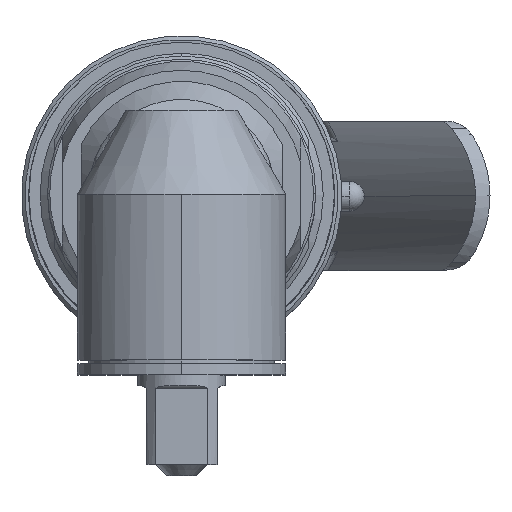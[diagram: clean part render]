
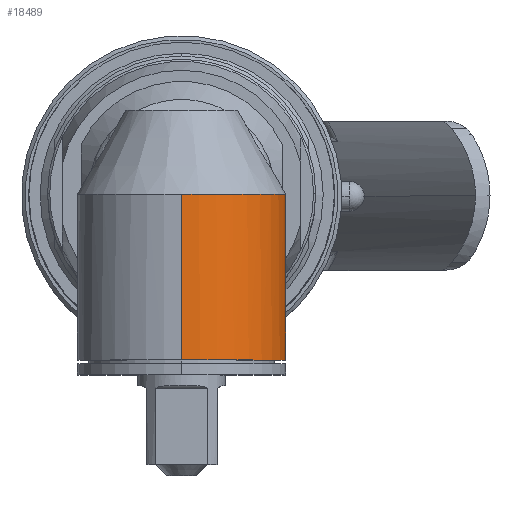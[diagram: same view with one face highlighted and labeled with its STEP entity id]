
A CAD part, top view. The second image highlights one B-rep face of the part: STEP entity #18489.
In plain terms, the highlighted cylindrical face has radius 14 mm (diameter 28 mm), a partial arc.
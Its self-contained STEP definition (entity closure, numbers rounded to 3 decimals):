
#9030 = DIRECTION ( 'NONE',  ( 0., 1., 0. ) ) ;
#9031 = VECTOR ( 'NONE', #9030, 1000. ) ;
#9032 = CARTESIAN_POINT ( 'NONE',  ( 0., 18.453, 14. ) ) ;
#9033 = LINE ( 'NONE', #9032, #9031 ) ;
#18489 = ADVANCED_FACE ( 'NONE', ( #29761 ), #29760, .T. ) ;
#18490 = EDGE_LOOP ( 'NONE', ( #18491, #18495, #18591, #18594, #18597, #18600, #18603 ) ) ;
#18491 = ORIENTED_EDGE ( 'NONE', *, *, #18492, .T. ) ;
#18492 = EDGE_CURVE ( 'NONE', #18493, #18494, #29755, .T. ) ;
#18493 = VERTEX_POINT ( 'NONE', #29816 ) ;
#18494 = VERTEX_POINT ( 'NONE', #29815 ) ;
#18495 = ORIENTED_EDGE ( 'NONE', *, *, #18590, .T. ) ;
#18496 = VERTEX_POINT ( 'NONE', #29814 ) ;
#18590 = EDGE_CURVE ( 'NONE', #18494, #18496, #30015, .T. ) ;
#18591 = ORIENTED_EDGE ( 'NONE', *, *, #18592, .T. ) ;
#18592 = EDGE_CURVE ( 'NONE', #18496, #18593, #30067, .T. ) ;
#18593 = VERTEX_POINT ( 'NONE', #30069 ) ;
#18594 = ORIENTED_EDGE ( 'NONE', *, *, #18595, .F. ) ;
#18595 = EDGE_CURVE ( 'NONE', #18596, #18593, #30068, .T. ) ;
#18596 = VERTEX_POINT ( 'NONE', #30059 ) ;
#18597 = ORIENTED_EDGE ( 'NONE', *, *, #18598, .T. ) ;
#18598 = EDGE_CURVE ( 'NONE', #18596, #18599, #30050, .T. ) ;
#18599 = VERTEX_POINT ( 'NONE', #30049 ) ;
#18600 = ORIENTED_EDGE ( 'NONE', *, *, #18601, .F. ) ;
#18601 = EDGE_CURVE ( 'NONE', #18602, #18599, #30058, .T. ) ;
#18602 = VERTEX_POINT ( 'NONE', #30101 ) ;
#18603 = ORIENTED_EDGE ( 'NONE', *, *, #35129, .F. ) ;
#29273 = DIRECTION ( 'NONE',  ( 0., 0., 1. ) ) ;
#29276 = DIRECTION ( 'NONE',  ( 0., 1., 0. ) ) ;
#29753 = CARTESIAN_POINT ( 'NONE',  ( 0., -22.5, 0. ) ) ;
#29754 = AXIS2_PLACEMENT_3D ( 'NONE', #29753, #29276, #29273 ) ;
#29755 = CIRCLE ( 'NONE', #29754, 14. ) ;
#29756 = DIRECTION ( 'NONE',  ( 0., 0., 1. ) ) ;
#29757 = DIRECTION ( 'NONE',  ( 0., 1., 0. ) ) ;
#29758 = CARTESIAN_POINT ( 'NONE',  ( 0., 18.453, 0. ) ) ;
#29759 = AXIS2_PLACEMENT_3D ( 'NONE', #29758, #29757, #29756 ) ;
#29760 = CYLINDRICAL_SURFACE ( 'NONE', #29759, 14. ) ;
#29761 = FACE_OUTER_BOUND ( 'NONE', #18490, .T. ) ;
#29814 = CARTESIAN_POINT ( 'NONE',  ( 0., -18., -14. ) ) ;
#29815 = CARTESIAN_POINT ( 'NONE',  ( 0., -22.5, -14. ) ) ;
#29816 = CARTESIAN_POINT ( 'NONE',  ( 0., -22.5, 14. ) ) ;
#30012 = DIRECTION ( 'NONE',  ( 0., 1., 0. ) ) ;
#30013 = VECTOR ( 'NONE', #30012, 1000. ) ;
#30014 = CARTESIAN_POINT ( 'NONE',  ( 0., 18.453, -14. ) ) ;
#30015 = LINE ( 'NONE', #30014, #30013 ) ;
#30049 = CARTESIAN_POINT ( 'NONE',  ( 12.497, -0.258, -6.31 ) ) ;
#30050 = B_SPLINE_CURVE_WITH_KNOTS ( 'NONE', 3,
 ( #30057, #30056, #30055, #30054, #30053, #30052, #30051, #30100, #30099, #30098, #30097, #30096, #30095, #30094, #30093, #30092, #30091, #30090, #30089, #30088, #30087, #30086, #30085, #30084, #30083, #30082 ),
 .UNSPECIFIED., .F., .F.,
 ( 4, 2, 2, 2, 2, 2, 2, 2, 2, 2, 2, 2, 4 ),
 ( 0.025, 0.026, 0.027, 0.029, 0.03, 0.032, 0.034, 0.036, 0.038, 0.039, 0.04, 0.041, 0.042 ),
 .UNSPECIFIED. ) ;
#30051 = CARTESIAN_POINT ( 'NONE',  ( 6.964, -10.399, -12.16 ) ) ;
#30052 = CARTESIAN_POINT ( 'NONE',  ( 6.424, -10.743, -12.455 ) ) ;
#30053 = CARTESIAN_POINT ( 'NONE',  ( 5.558, -11.201, -12.853 ) ) ;
#30054 = CARTESIAN_POINT ( 'NONE',  ( 5.26, -11.345, -12.979 ) ) ;
#30055 = CARTESIAN_POINT ( 'NONE',  ( 4.642, -11.611, -13.212 ) ) ;
#30056 = CARTESIAN_POINT ( 'NONE',  ( 4.323, -11.734, -13.32 ) ) ;
#30057 = CARTESIAN_POINT ( 'NONE',  ( 4., -11.843, -13.416 ) ) ;
#30058 = CIRCLE ( 'NONE', #30105, 14. ) ;
#30059 = CARTESIAN_POINT ( 'NONE',  ( 4., -11.843, -13.416 ) ) ;
#30060 = DIRECTION ( 'NONE',  ( 0., -1., 0. ) ) ;
#30061 = VECTOR ( 'NONE', #30060, 1000. ) ;
#30062 = CARTESIAN_POINT ( 'NONE',  ( 4., 18.453, -13.416 ) ) ;
#30063 = CARTESIAN_POINT ( 'NONE',  ( 4., -18.337, -13.416 ) ) ;
#30064 = CARTESIAN_POINT ( 'NONE',  ( 2.7, -18.113, -13.804 ) ) ;
#30065 = CARTESIAN_POINT ( 'NONE',  ( 1.357, -18., -14. ) ) ;
#30066 = CARTESIAN_POINT ( 'NONE',  ( 0., -18., -14. ) ) ;
#30067 =( BOUNDED_CURVE ( )  B_SPLINE_CURVE ( 3, ( #30066, #30065, #30064, #30063 ),
 .UNSPECIFIED., .F., .F. ) 
 B_SPLINE_CURVE_WITH_KNOTS ( ( 4, 4 ),
 ( 0., 0.29 ),
 .UNSPECIFIED. ) 
 CURVE ( )  GEOMETRIC_REPRESENTATION_ITEM ( )  RATIONAL_B_SPLINE_CURVE ( ( 1., 0.993, 0.993, 1. ) ) 
 REPRESENTATION_ITEM ( '' )  );
#30068 = LINE ( 'NONE', #30062, #30061 ) ;
#30069 = CARTESIAN_POINT ( 'NONE',  ( 4., -18.337, -13.416 ) ) ;
#30082 = CARTESIAN_POINT ( 'NONE',  ( 12.497, -0.258, -6.31 ) ) ;
#30083 = CARTESIAN_POINT ( 'NONE',  ( 12.49, -0.617, -6.325 ) ) ;
#30084 = CARTESIAN_POINT ( 'NONE',  ( 12.467, -0.974, -6.371 ) ) ;
#30085 = CARTESIAN_POINT ( 'NONE',  ( 12.393, -1.666, -6.512 ) ) ;
#30086 = CARTESIAN_POINT ( 'NONE',  ( 12.343, -2.002, -6.608 ) ) ;
#30087 = CARTESIAN_POINT ( 'NONE',  ( 12.218, -2.66, -6.836 ) ) ;
#30088 = CARTESIAN_POINT ( 'NONE',  ( 12.143, -2.984, -6.97 ) ) ;
#30089 = CARTESIAN_POINT ( 'NONE',  ( 11.972, -3.611, -7.26 ) ) ;
#30090 = CARTESIAN_POINT ( 'NONE',  ( 11.876, -3.914, -7.417 ) ) ;
#30091 = CARTESIAN_POINT ( 'NONE',  ( 11.559, -4.799, -7.908 ) ) ;
#30092 = CARTESIAN_POINT ( 'NONE',  ( 11.31, -5.357, -8.264 ) ) ;
#30093 = CARTESIAN_POINT ( 'NONE',  ( 10.736, -6.432, -8.998 ) ) ;
#30094 = CARTESIAN_POINT ( 'NONE',  ( 10.413, -6.941, -9.372 ) ) ;
#30095 = CARTESIAN_POINT ( 'NONE',  ( 9.701, -7.906, -10.107 ) ) ;
#30096 = CARTESIAN_POINT ( 'NONE',  ( 9.31, -8.363, -10.471 ) ) ;
#30097 = CARTESIAN_POINT ( 'NONE',  ( 8.666, -9.014, -10.999 ) ) ;
#30098 = CARTESIAN_POINT ( 'NONE',  ( 8.441, -9.225, -11.173 ) ) ;
#30099 = CARTESIAN_POINT ( 'NONE',  ( 7.971, -9.634, -11.513 ) ) ;
#30100 = CARTESIAN_POINT ( 'NONE',  ( 7.725, -9.833, -11.68 ) ) ;
#30101 = CARTESIAN_POINT ( 'NONE',  ( 0., -0.258, 14. ) ) ;
#30102 = DIRECTION ( 'NONE',  ( 0., 0., 1. ) ) ;
#30103 = DIRECTION ( 'NONE',  ( 0., 1., 0. ) ) ;
#30104 = CARTESIAN_POINT ( 'NONE',  ( 0., -0.258, 0. ) ) ;
#30105 = AXIS2_PLACEMENT_3D ( 'NONE', #30104, #30103, #30102 ) ;
#35129 = EDGE_CURVE ( 'NONE', #18493, #18602, #9033, .T. ) ;
